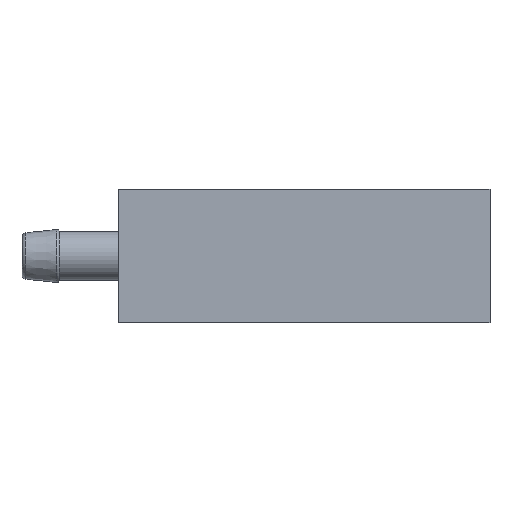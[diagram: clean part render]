
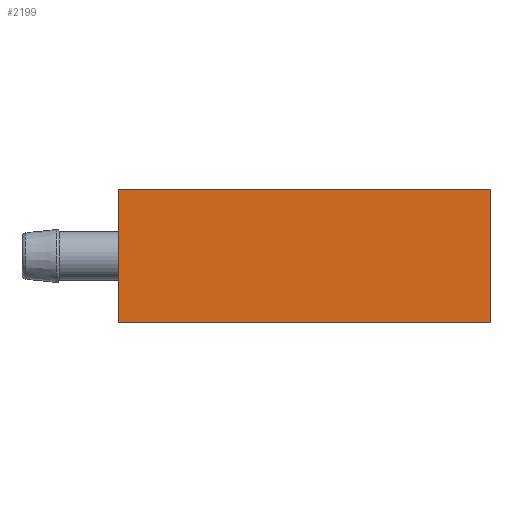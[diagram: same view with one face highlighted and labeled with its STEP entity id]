
A CAD part, front view. The second image highlights one B-rep face of the part: STEP entity #2199.
In plain terms, the highlighted planar face has unit normal (0, -1, 0) as drawn and (0, 1, 0) by its records, which use the part's own axes.
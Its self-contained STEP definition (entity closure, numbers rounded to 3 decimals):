
#63 = EDGE_CURVE ( 'NONE', #670, #4821, #4234, .T. ) ;
#81 = VECTOR ( 'NONE', #2275, 1000. ) ;
#99 = CARTESIAN_POINT ( 'NONE',  ( 12.5, 7., 4.5 ) ) ;
#138 = CARTESIAN_POINT ( 'NONE',  ( -12.5, 7., -4.5 ) ) ;
#537 = DIRECTION ( 'NONE',  ( 0., -1., 0. ) ) ;
#552 = VERTEX_POINT ( 'NONE', #2196 ) ;
#630 = EDGE_CURVE ( 'NONE', #4821, #552, #2198, .T. ) ;
#670 = VERTEX_POINT ( 'NONE', #1589 ) ;
#933 = EDGE_CURVE ( 'NONE', #2407, #552, #2811, .T. ) ;
#968 = CARTESIAN_POINT ( 'NONE',  ( 12.5, 7., -4.5 ) ) ;
#1229 = ORIENTED_EDGE ( 'NONE', *, *, #1930, .T. ) ;
#1497 = LINE ( 'NONE', #3081, #5130 ) ;
#1589 = CARTESIAN_POINT ( 'NONE',  ( 12.5, 7., -4.5 ) ) ;
#1930 = EDGE_CURVE ( 'NONE', #670, #2407, #1497, .T. ) ;
#2196 = CARTESIAN_POINT ( 'NONE',  ( -12.5, 7., 4.5 ) ) ;
#2198 = LINE ( 'NONE', #99, #2334 ) ;
#2199 = ADVANCED_FACE ( 'NONE', ( #3301 ), #2287, .F. ) ;
#2275 = DIRECTION ( 'NONE',  ( 0., 0., 1. ) ) ;
#2287 = PLANE ( 'NONE',  #2518 ) ;
#2324 = EDGE_LOOP ( 'NONE', ( #2605, #3321, #2990, #1229 ) ) ;
#2334 = VECTOR ( 'NONE', #4966, 1000. ) ;
#2407 = VERTEX_POINT ( 'NONE', #138 ) ;
#2518 = AXIS2_PLACEMENT_3D ( 'NONE', #3136, #537, #3551 ) ;
#2605 = ORIENTED_EDGE ( 'NONE', *, *, #933, .T. ) ;
#2811 = LINE ( 'NONE', #3325, #4497 ) ;
#2990 = ORIENTED_EDGE ( 'NONE', *, *, #63, .F. ) ;
#3081 = CARTESIAN_POINT ( 'NONE',  ( 12.5, 7., -4.5 ) ) ;
#3136 = CARTESIAN_POINT ( 'NONE',  ( 12.5, 7., -4.5 ) ) ;
#3301 = FACE_OUTER_BOUND ( 'NONE', #2324, .T. ) ;
#3321 = ORIENTED_EDGE ( 'NONE', *, *, #630, .F. ) ;
#3325 = CARTESIAN_POINT ( 'NONE',  ( -12.5, 7., -4.5 ) ) ;
#3551 = DIRECTION ( 'NONE',  ( 0., 0., -1. ) ) ;
#4182 = DIRECTION ( 'NONE',  ( 0., 0., 1. ) ) ;
#4234 = LINE ( 'NONE', #968, #81 ) ;
#4262 = CARTESIAN_POINT ( 'NONE',  ( 12.5, 7., 4.5 ) ) ;
#4344 = DIRECTION ( 'NONE',  ( -1., 0., 0. ) ) ;
#4497 = VECTOR ( 'NONE', #4182, 1000. ) ;
#4821 = VERTEX_POINT ( 'NONE', #4262 ) ;
#4966 = DIRECTION ( 'NONE',  ( -1., 0., 0. ) ) ;
#5130 = VECTOR ( 'NONE', #4344, 1000. ) ;
